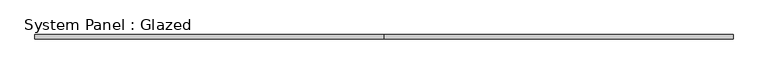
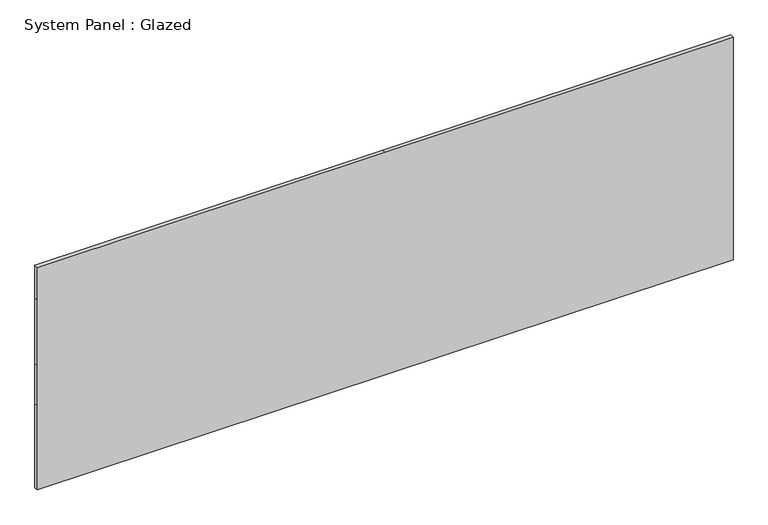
"""IFC4 building model written with IfcOpenShell, lengths in millimetres: plate geometry, System Panel : Glazed."""

from ifc_helpers import new_model, si_unit, frame, origin, place, context, project, spatial, polyline, outline, extrude, source, transform, mapped, element, save


def system_panel_glazed_0fbc5ba6(model_context):
    return source(origin(), model_context, "Body", "SweptSolid", [
        extrude(outline(polyline([(0.0, -2138.1357142), (0.0, 0.0), (0.0, 2138.1357142), (546.1, 2138.1357142), (806.45, 2138.1357142), (1231.9, 2138.1357142), (1444.1527241, 2138.1357142), (1444.1527241, 0.0), (1444.1527241, -2138.1357142), (1231.9, -2138.1357142), (806.45, -2138.1357142), (546.1, -2138.1357142), (0.0, -2138.1357142)])), frame((0.0, 19.05, 0.0), z_axis=(0.0, 1.0, 0.0), x_axis=(0.0, 0.0, 1.0)), (0.0, 0.0, 1.0), 25.4),
    ])


if __name__ == "__main__":
    model = new_model("IFC4")
    model_context = context("Model", 3, world=origin())
    ifc_project = project(units=[si_unit("LENGTHUNIT", "METRE", prefix="MILLI")], contexts=[model_context])
    site = spatial("IfcSite", under=ifc_project)
    building = spatial("IfcBuilding", under=site)
    placement = place(None, origin())
    system_panel_glazed_shape = system_panel_glazed_0fbc5ba6(model_context)
    element("IfcPlate", 1, ObjectType="System Panel : Glazed", at=placement, inside=building, context=model_context, shape_type="MappedRepresentation", body=[
        mapped(system_panel_glazed_shape, transform((0.0, 0.0, 0.0), x_axis=(1.0, 0.0, 0.0), y_axis=(0.0, 1.0, 0.0), z_axis=(0.0, 0.0, 1.0))),
    ])
    save(model, "model.ifc")
